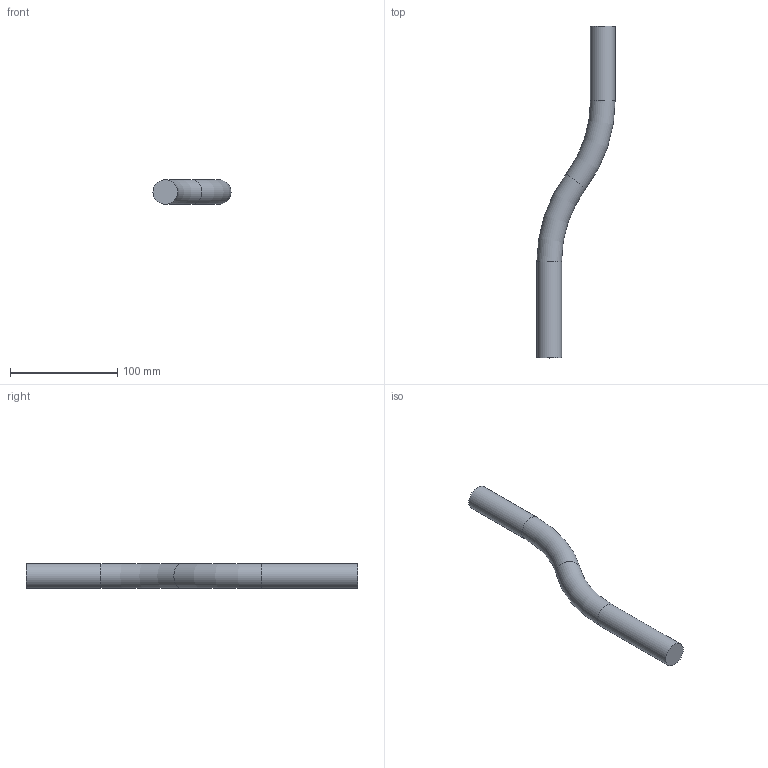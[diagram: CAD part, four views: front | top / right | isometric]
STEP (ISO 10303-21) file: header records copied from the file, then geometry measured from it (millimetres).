
FILE_DESCRIPTION(/* description */ (''),/* implementation_level */ '2;1');
FILE_NAME(/* name */ 'C:/Users/Jack/Documents/S Bend Tube v1.step',/* time_stamp */ '2020-05-28T19:04:11+01:00',/* author */ (''),/* organization */ (''),/* preprocessor_version */ 'ST-DEVELOPER v18.1',/* originating_system */ 'Autodesk Translation Framework v9.3.0.1241',/* authorisation */ '');
FILE_SCHEMA (('AUTOMOTIVE_DESIGN { 1 0 10303 214 3 1 1 }'));
Length unit declared in the file: millimetre
Products named in the file (1): S Bend Tube
Bounding box: 73 x 310 x 23 mm (x, y, z)
Volume: 133315.9 mm3; surface area: 24016.3 mm2
Topology: 1 solids, 1 shells, 6 faces, 11 edges, 7 vertices
Faces by surface type: cylinder 2, torus 2, plane 2
Full cylindrical faces by diameter (mm): 23 x2
Entity records: 196 total; most frequent: DIRECTION 34, CARTESIAN_POINT 25, ORIENTED_EDGE 22, AXIS2_PLACEMENT_3D 16, EDGE_CURVE 11, CIRCLE 9, VERTEX_POINT 7, FACE_OUTER_BOUND 6
